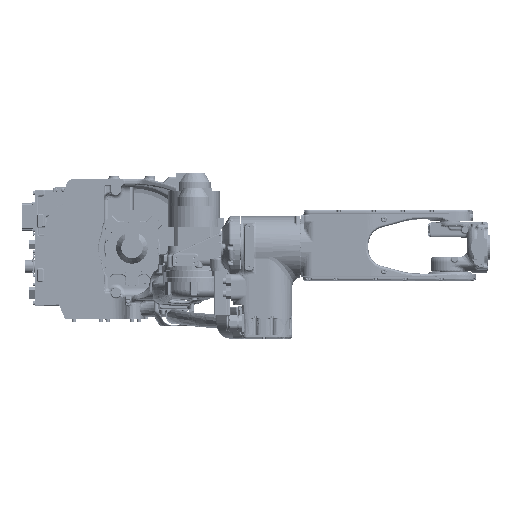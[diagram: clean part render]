
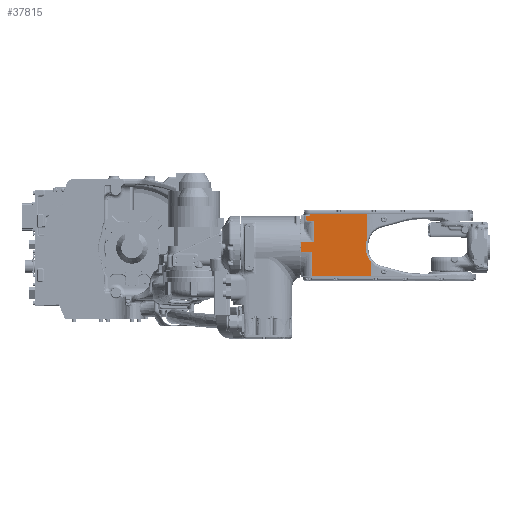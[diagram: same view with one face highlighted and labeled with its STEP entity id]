
A CAD part, top view. The second image highlights one B-rep face of the part: STEP entity #37815.
In plain terms, the highlighted planar face has unit normal (0, 0, 1) as drawn and (1, 0, 0) by its records, which use the part's own axes.
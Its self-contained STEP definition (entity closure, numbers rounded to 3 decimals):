
#6641=PLANE('',#145667);
#22280=LINE('',#318466,#29975);
#22411=LINE('',#319084,#30106);
#22412=LINE('',#319086,#30107);
#22413=LINE('',#319089,#30108);
#22414=LINE('',#319107,#30109);
#22415=LINE('',#319120,#30110);
#22416=LINE('',#319122,#30111);
#22417=LINE('',#319124,#30112);
#22418=LINE('',#319126,#30113);
#22419=LINE('',#319128,#30114);
#22420=LINE('',#319130,#30115);
#22421=LINE('',#319132,#30116);
#22422=LINE('',#319144,#30117);
#22423=LINE('',#319146,#30118);
#29975=VECTOR('',#178163,1.);
#30106=VECTOR('',#178432,1.);
#30107=VECTOR('',#178435,1.);
#30108=VECTOR('',#178436,1.);
#30109=VECTOR('',#178437,1.);
#30110=VECTOR('',#178438,1.);
#30111=VECTOR('',#178439,1.);
#30112=VECTOR('',#178440,1.);
#30113=VECTOR('',#178441,1.);
#30114=VECTOR('',#178442,1.);
#30115=VECTOR('',#178443,1.);
#30116=VECTOR('',#178444,1.);
#30117=VECTOR('',#178445,1.);
#30118=VECTOR('',#178446,1.);
#37815=ADVANCED_FACE('',(#47180),#6641,.T.);
#47180=FACE_OUTER_BOUND('',#55602,.T.);
#55602=EDGE_LOOP('',(#92541,#92542,#92543,#92544,#92545,#92546,#92547,#92548,
#92549,#92550,#92551,#92552,#92553,#92554,#92555,#92556,#92557));
#60287=B_SPLINE_CURVE_WITH_KNOTS('',3,(#319090,#319091,#319092,#319093,
#319094,#319095,#319096,#319097,#319098,#319099,#319100,#319101,#319102,
#319103,#319104,#319105),.UNSPECIFIED.,.F.,.F.,(4,1,1,1,1,1,1,1,1,1,1,1,
1,4),(0.,0.077,0.154,0.231,0.308,
0.385,0.462,0.538,0.615,0.692,
0.769,0.846,0.923,1.),.UNSPECIFIED.);
#60288=B_SPLINE_CURVE_WITH_KNOTS('',3,(#319109,#319110,#319111,#319112,
#319113,#319114,#319115,#319116,#319117,#319118),.UNSPECIFIED.,.F.,.F.,
(4,1,1,1,1,1,1,4),(0.,0.143,0.286,0.429,0.571,
0.714,0.857,1.),.UNSPECIFIED.);
#60289=B_SPLINE_CURVE_WITH_KNOTS('',3,(#319134,#319135,#319136,#319137,
#319138,#319139,#319140,#319141,#319142),.UNSPECIFIED.,.F.,.F.,(4,1,1,1,
1,1,4),(0.,0.167,0.333,0.5,0.667,0.833,
1.),.UNSPECIFIED.);
#92541=ORIENTED_EDGE('',*,*,#129372,.F.);
#92542=ORIENTED_EDGE('',*,*,#129373,.T.);
#92543=ORIENTED_EDGE('',*,*,#129189,.F.);
#92544=ORIENTED_EDGE('',*,*,#129371,.F.);
#92545=ORIENTED_EDGE('',*,*,#129374,.F.);
#92546=ORIENTED_EDGE('',*,*,#129375,.F.);
#92547=ORIENTED_EDGE('',*,*,#129376,.F.);
#92548=ORIENTED_EDGE('',*,*,#129377,.T.);
#92549=ORIENTED_EDGE('',*,*,#129378,.T.);
#92550=ORIENTED_EDGE('',*,*,#129379,.T.);
#92551=ORIENTED_EDGE('',*,*,#129380,.F.);
#92552=ORIENTED_EDGE('',*,*,#129381,.T.);
#92553=ORIENTED_EDGE('',*,*,#129382,.T.);
#92554=ORIENTED_EDGE('',*,*,#129383,.T.);
#92555=ORIENTED_EDGE('',*,*,#129384,.T.);
#92556=ORIENTED_EDGE('',*,*,#129385,.T.);
#92557=ORIENTED_EDGE('',*,*,#129386,.T.);
#110980=VERTEX_POINT('',#318465);
#110981=VERTEX_POINT('',#318467);
#111115=VERTEX_POINT('',#319083);
#111116=VERTEX_POINT('',#319087);
#111117=VERTEX_POINT('',#319088);
#111118=VERTEX_POINT('',#319106);
#111119=VERTEX_POINT('',#319108);
#111120=VERTEX_POINT('',#319119);
#111121=VERTEX_POINT('',#319121);
#111122=VERTEX_POINT('',#319123);
#111123=VERTEX_POINT('',#319125);
#111124=VERTEX_POINT('',#319127);
#111125=VERTEX_POINT('',#319129);
#111126=VERTEX_POINT('',#319131);
#111127=VERTEX_POINT('',#319133);
#111128=VERTEX_POINT('',#319143);
#111129=VERTEX_POINT('',#319145);
#129189=EDGE_CURVE('',#110980,#110981,#22280,.T.);
#129371=EDGE_CURVE('',#111115,#110980,#22411,.T.);
#129372=EDGE_CURVE('',#111116,#111117,#22412,.T.);
#129373=EDGE_CURVE('',#111116,#110981,#22413,.T.);
#129374=EDGE_CURVE('',#111118,#111115,#60287,.T.);
#129375=EDGE_CURVE('',#111119,#111118,#22414,.T.);
#129376=EDGE_CURVE('',#111120,#111119,#60288,.T.);
#129377=EDGE_CURVE('',#111120,#111121,#22415,.T.);
#129378=EDGE_CURVE('',#111121,#111122,#22416,.T.);
#129379=EDGE_CURVE('',#111122,#111123,#22417,.T.);
#129380=EDGE_CURVE('',#111124,#111123,#22418,.T.);
#129381=EDGE_CURVE('',#111124,#111125,#22419,.T.);
#129382=EDGE_CURVE('',#111125,#111126,#22420,.T.);
#129383=EDGE_CURVE('',#111126,#111127,#22421,.T.);
#129384=EDGE_CURVE('',#111127,#111128,#60289,.T.);
#129385=EDGE_CURVE('',#111128,#111129,#22422,.T.);
#129386=EDGE_CURVE('',#111129,#111117,#22423,.T.);
#145667=AXIS2_PLACEMENT_3D('',#319147,#178447,#178448);
#178163=DIRECTION('',(0.,0.,-1.));
#178432=DIRECTION('',(0.,1.,0.));
#178435=DIRECTION('',(0.,0.,-1.));
#178436=DIRECTION('',(0.,1.,0.));
#178437=DIRECTION('',(0.,1.,0.));
#178438=DIRECTION('',(0.,-1.,0.));
#178439=DIRECTION('',(0.,0.,-1.));
#178440=DIRECTION('',(0.,1.,0.));
#178441=DIRECTION('',(0.,0.,1.));
#178442=DIRECTION('',(0.,1.,0.));
#178443=DIRECTION('',(0.,0.104,0.995));
#178444=DIRECTION('',(0.,1.,0.));
#178445=DIRECTION('',(0.,0.,-1.));
#178446=DIRECTION('',(0.,1.,0.));
#178447=DIRECTION('',(1.,0.,0.));
#178448=DIRECTION('',(0.,0.,1.));
#318465=CARTESIAN_POINT('',(77.,73.5,-197.542));
#318466=CARTESIAN_POINT('',(77.,73.5,-197.542));
#318467=CARTESIAN_POINT('',(77.,73.5,-344.));
#319083=CARTESIAN_POINT('',(77.,37.097,-197.542));
#319084=CARTESIAN_POINT('',(77.,37.097,-197.542));
#319086=CARTESIAN_POINT('',(77.,11.619,-344.));
#319087=CARTESIAN_POINT('',(77.,11.619,-344.));
#319088=CARTESIAN_POINT('',(77.,11.619,-372.));
#319089=CARTESIAN_POINT('',(77.,11.619,-344.));
#319090=CARTESIAN_POINT('',(77.,4.261,-209.84));
#319091=CARTESIAN_POINT('',(77.,5.181,-209.84));
#319092=CARTESIAN_POINT('',(77.,7.017,-209.789));
#319093=CARTESIAN_POINT('',(77.,9.766,-209.561));
#319094=CARTESIAN_POINT('',(77.,12.497,-209.182));
#319095=CARTESIAN_POINT('',(77.,15.203,-208.654));
#319096=CARTESIAN_POINT('',(77.,17.875,-207.977));
#319097=CARTESIAN_POINT('',(77.,20.506,-207.153));
#319098=CARTESIAN_POINT('',(77.,23.088,-206.187));
#319099=CARTESIAN_POINT('',(77.,25.612,-205.079));
#319100=CARTESIAN_POINT('',(77.,28.072,-203.834));
#319101=CARTESIAN_POINT('',(77.,30.459,-202.455));
#319102=CARTESIAN_POINT('',(77.,32.766,-200.947));
#319103=CARTESIAN_POINT('',(77.,34.987,-199.314));
#319104=CARTESIAN_POINT('',(77.,36.404,-198.146));
#319105=CARTESIAN_POINT('',(77.,37.097,-197.542));
#319106=CARTESIAN_POINT('',(77.,4.261,-209.84));
#319107=CARTESIAN_POINT('',(77.,-6.251,-209.84));
#319108=CARTESIAN_POINT('',(77.,-6.251,-209.84));
#319109=CARTESIAN_POINT('',(77.,-24.502,-206.389));
#319110=CARTESIAN_POINT('',(77.,-23.673,-206.714));
#319111=CARTESIAN_POINT('',(77.,-22.001,-207.319));
#319112=CARTESIAN_POINT('',(77.,-19.445,-208.092));
#319113=CARTESIAN_POINT('',(77.,-16.852,-208.727));
#319114=CARTESIAN_POINT('',(77.,-14.229,-209.223));
#319115=CARTESIAN_POINT('',(77.,-11.582,-209.579));
#319116=CARTESIAN_POINT('',(77.,-8.92,-209.792));
#319117=CARTESIAN_POINT('',(77.,-7.142,-209.84));
#319118=CARTESIAN_POINT('',(77.,-6.251,-209.84));
#319119=CARTESIAN_POINT('',(77.,-24.502,-206.389));
#319120=CARTESIAN_POINT('',(77.,-24.502,-206.389));
#319121=CARTESIAN_POINT('',(77.,-83.5,-206.389));
#319122=CARTESIAN_POINT('',(77.,-83.5,-206.389));
#319123=CARTESIAN_POINT('',(77.,-83.5,-350.));
#319124=CARTESIAN_POINT('',(77.,-83.5,-350.));
#319125=CARTESIAN_POINT('',(77.,-78.2,-350.));
#319126=CARTESIAN_POINT('',(77.,-78.2,-359.82));
#319127=CARTESIAN_POINT('',(77.,-78.2,-359.82));
#319128=CARTESIAN_POINT('',(77.,-78.2,-359.82));
#319129=CARTESIAN_POINT('',(77.,-66.62,-359.82));
#319130=CARTESIAN_POINT('',(77.,-66.62,-359.82));
#319131=CARTESIAN_POINT('',(77.,-64.543,-340.));
#319132=CARTESIAN_POINT('',(77.,-64.543,-340.));
#319133=CARTESIAN_POINT('',(77.,-13.077,-340.));
#319134=CARTESIAN_POINT('',(77.,-13.077,-340.));
#319135=CARTESIAN_POINT('',(77.,-13.014,-340.111));
#319136=CARTESIAN_POINT('',(77.,-12.895,-340.343));
#319137=CARTESIAN_POINT('',(77.,-12.743,-340.72));
#319138=CARTESIAN_POINT('',(77.,-12.619,-341.13));
#319139=CARTESIAN_POINT('',(77.,-12.525,-341.574));
#319140=CARTESIAN_POINT('',(77.,-12.465,-342.058));
#319141=CARTESIAN_POINT('',(77.,-12.45,-342.414));
#319142=CARTESIAN_POINT('',(77.,-12.45,-342.6));
#319143=CARTESIAN_POINT('',(77.,-12.45,-342.6));
#319144=CARTESIAN_POINT('',(77.,-12.45,-342.6));
#319145=CARTESIAN_POINT('',(77.,-12.45,-372.));
#319146=CARTESIAN_POINT('',(77.,-12.45,-372.));
#319147=CARTESIAN_POINT('',(77.,84.2,-199.397));
